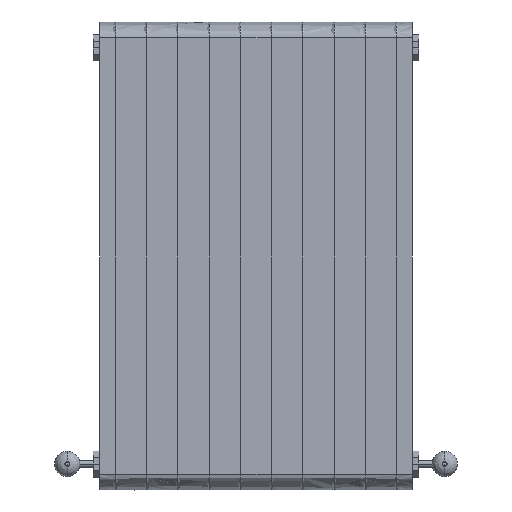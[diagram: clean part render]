
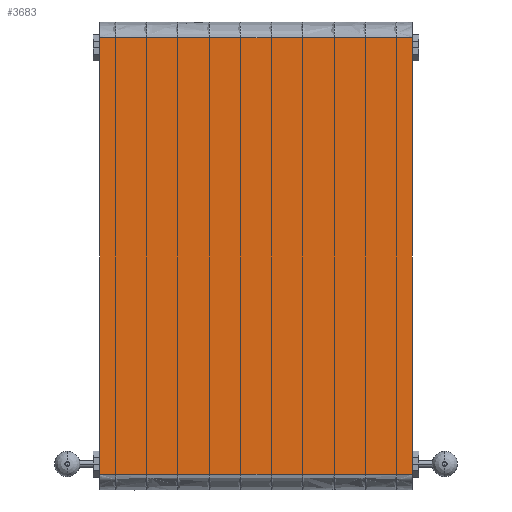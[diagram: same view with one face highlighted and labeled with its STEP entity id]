
A CAD part, front view. The second image highlights one B-rep face of the part: STEP entity #3683.
In plain terms, the highlighted planar face has unit normal (0, -1, 0).
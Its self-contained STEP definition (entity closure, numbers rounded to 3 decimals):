
#472=FACE_OUTER_BOUND('',#695,.T.);
#695=EDGE_LOOP('',(#2524,#2525,#2526,#2527));
#983=LINE('',#5391,#1310);
#986=LINE('',#5402,#1313);
#988=LINE('',#5445,#1315);
#989=LINE('',#5447,#1316);
#1310=VECTOR('',#4397,304.8);
#1313=VECTOR('',#4406,304.8);
#1315=VECTOR('',#4410,304.8);
#1316=VECTOR('',#4413,304.8);
#1606=VERTEX_POINT('',#5388);
#1607=VERTEX_POINT('',#5390);
#1611=VERTEX_POINT('',#5399);
#1612=VERTEX_POINT('',#5401);
#1936=EDGE_CURVE('',#1606,#1607,#983,.T.);
#1941=EDGE_CURVE('',#1611,#1612,#986,.T.);
#1944=EDGE_CURVE('',#1612,#1606,#988,.T.);
#1945=EDGE_CURVE('',#1611,#1607,#989,.T.);
#2524=ORIENTED_EDGE('',*,*,#1936,.F.);
#2525=ORIENTED_EDGE('',*,*,#1944,.F.);
#2526=ORIENTED_EDGE('',*,*,#1941,.F.);
#2527=ORIENTED_EDGE('',*,*,#1945,.T.);
#3324=PLANE('',#3933);
#3683=ADVANCED_FACE('',(#472),#3324,.T.);
#3933=AXIS2_PLACEMENT_3D('',#5446,#4411,#4412);
#4397=DIRECTION('',(0.,0.,-1.));
#4406=DIRECTION('',(0.,0.,1.));
#4410=DIRECTION('',(1.,0.,0.));
#4411=DIRECTION('center_axis',(0.,-1.,0.));
#4412=DIRECTION('ref_axis',(-1.,0.,0.));
#4413=DIRECTION('',(1.,0.,0.));
#5388=CARTESIAN_POINT('',(300.,-176.,930.));
#5390=CARTESIAN_POINT('',(300.,-176.,90.));
#5391=CARTESIAN_POINT('',(300.,-176.,930.));
#5399=CARTESIAN_POINT('',(-300.,-176.,90.));
#5401=CARTESIAN_POINT('',(-300.,-176.,930.));
#5402=CARTESIAN_POINT('',(-300.,-176.,90.));
#5445=CARTESIAN_POINT('',(300.,-176.,930.));
#5446=CARTESIAN_POINT('Origin',(300.,-176.,930.));
#5447=CARTESIAN_POINT('',(-300.,-176.,90.));
